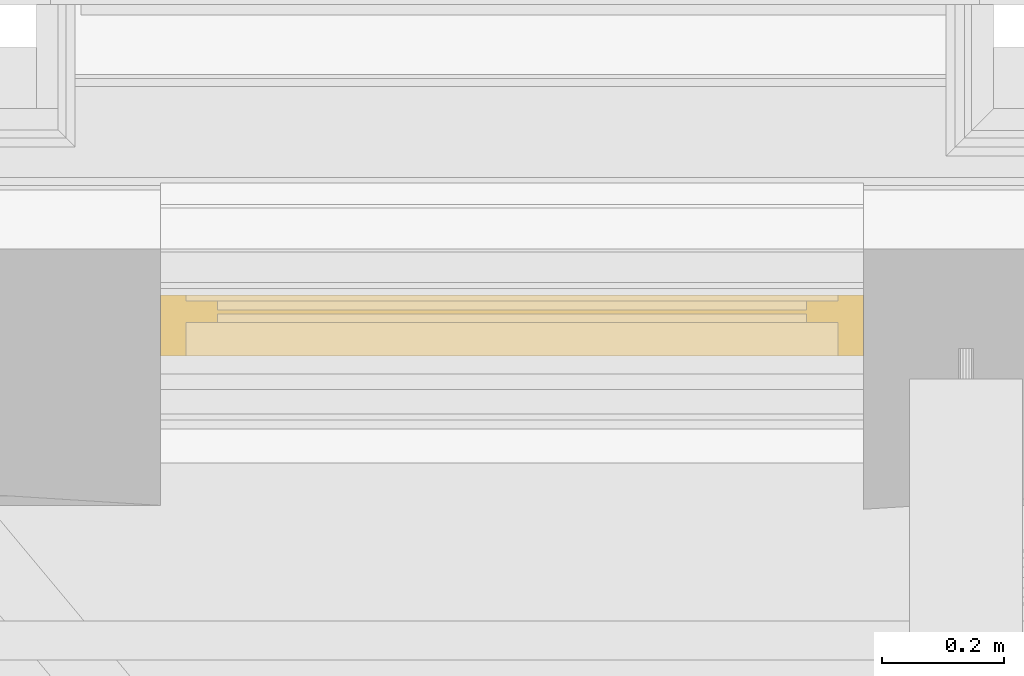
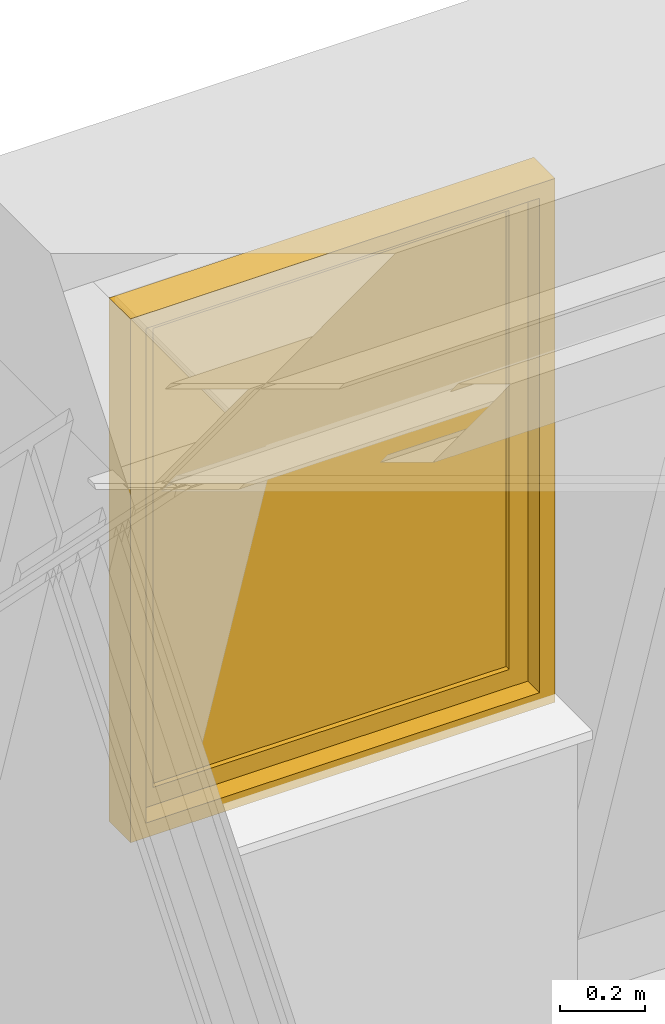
# One storey, part 134 of 183: 1 window.
"""IFC2X3 building model written with IfcOpenShell, lengths in metres."""

import ifcopenshell
import ifcopenshell.guid

model = None  # the IFC model being written
_history = None  # IfcOwnerHistory: only IFC2X3 demands one
_inside = {}  # id of a spatial element -> (the spatial element, [elements in it])
_under = {}  # id of a project, library or spatial element -> (it, [spatial elements below it])
_declared = {}  # id of a project -> (the project, [libraries it declares])
_typed = {}  # id of a type object -> (the type object, [elements of that type])
_made_of = {}  # id of a material, layer set ... -> (it, [elements and type objects made of it])


def new_model(schema):
    """Start an empty IFC model of exactly this schema.

    Asked for "IFC4X3", IfcOpenShell would pick the latest addendum, in which some entities
    have other attributes; the version numbers below select the first issue.
    IFC2X3 requires an IfcOwnerHistory on every rooted entity: one is made here for all.
    """
    global model, _history
    if schema == "IFC4X3":
        model = ifcopenshell.file(schema_version=(4, 3, 0, 0))
    else:
        model = ifcopenshell.file(schema=schema)
    _inside.clear()
    _under.clear()
    _declared.clear()
    _typed.clear()
    _made_of.clear()
    _history = None
    if model.schema == "IFC2X3":
        org = make("IfcOrganization", Name="unknown")
        user = make(
            "IfcPersonAndOrganization",
            ThePerson=make("IfcPerson", FamilyName="unknown"),
            TheOrganization=org,
        )
        app = make(
            "IfcApplication",
            ApplicationDeveloper=org,
            Version="unknown",
            ApplicationFullName="unknown",
            ApplicationIdentifier="unknown",
        )
        _history = make(
            "IfcOwnerHistory",
            OwningUser=user,
            OwningApplication=app,
            ChangeAction="ADDED",
            CreationDate=0,
        )
    return model


def make(cls, **values):
    """One entity of the class cls with the attributes given. An attribute that is None is left unset."""
    return model.create_entity(
        cls, **{name: value for name, value in values.items() if value is not None}
    )


def entity(cls, *values):
    """Any entity or typed value of the class cls, its attributes in the order of the schema. None: left unset."""
    e = model.create_entity(cls)
    for i, value in enumerate(values):
        if value is not None:
            e[i] = value
    return e


def rooted(cls, **values):
    """An entity with a GlobalId (a new one), such as an element, a storey or a relation."""
    return make(cls, GlobalId=ifcopenshell.guid.new(), OwnerHistory=_history, **values)


def si_unit(unit_type, name, prefix=None):
    """IfcSIUnit, for example si_unit("LENGTHUNIT", "METRE", prefix="MILLI")."""
    return make("IfcSIUnit", UnitType=unit_type, Prefix=prefix, Name=name)


def converted_unit(unit_type, name, factor, base, dimensions=None, offset=None):
    """IfcConversionBasedUnit, such as the inch: factor (a typed value) times the base unit."""
    return make(
        "IfcConversionBasedUnit"
        if offset is None
        else "IfcConversionBasedUnitWithOffset",
        ConversionOffset=offset,
        Dimensions=None
        if dimensions is None
        else entity("IfcDimensionalExponents", *dimensions),
        UnitType=unit_type,
        Name=name,
        ConversionFactor=make(
            "IfcMeasureWithUnit", ValueComponent=factor, UnitComponent=base
        ),
    )


def derived_unit(unit_type, elements):
    """IfcDerivedUnit: a product of units, each with its exponent."""
    return make(
        "IfcDerivedUnit",
        Elements=[
            make("IfcDerivedUnitElement", Unit=unit, Exponent=power)
            for unit, power in elements
        ],
        UnitType=unit_type,
    )


def money_unit(currency):
    """IfcMonetaryUnit."""
    return make("IfcMonetaryUnit", Currency=currency)


def assignment(units):
    """IfcUnitAssignment: the units of a project."""
    return None if units is None else make("IfcUnitAssignment", Units=units)


def point(xyz):
    """IfcCartesianPoint."""
    return None if xyz is None else make("IfcCartesianPoint", Coordinates=xyz)


def direction(xyz):
    """IfcDirection."""
    return None if xyz is None else make("IfcDirection", DirectionRatios=xyz)


def frame(location, z_axis=None, x_axis=None):
    """IfcAxis2Placement3D, a coordinate frame: its origin and axes. An axis left out is left unset."""
    return make(
        "IfcAxis2Placement3D",
        Location=point(location),
        Axis=direction(z_axis),
        RefDirection=direction(x_axis),
    )


def origin_with_axes():
    """The frame at (0, 0, 0) with the z axis (0, 0, 1) and the x axis (1, 0, 0) written out."""
    return frame((0.0, 0.0, 0.0), z_axis=(0.0, 0.0, 1.0), x_axis=(1.0, 0.0, 0.0))


def place(relative_to, where):
    """IfcLocalPlacement: puts the frame where relative to a parent placement (None: the world)."""
    return make(
        "IfcLocalPlacement", PlacementRelTo=relative_to, RelativePlacement=where
    )


def context(
    kind, dimensions, precision=None, world=None, true_north=None, identifier=None
):
    """IfcGeometricRepresentationContext, for example the 3D "Model" context."""
    return make(
        "IfcGeometricRepresentationContext",
        ContextIdentifier=identifier,
        ContextType=kind,
        CoordinateSpaceDimension=dimensions,
        Precision=precision,
        WorldCoordinateSystem=world,
        TrueNorth=true_north,
    )


def subcontext(parent, identifier, kind, view, scale=None):
    """IfcGeometricRepresentationSubContext, for example "Body" below "Model"."""
    return make(
        "IfcGeometricRepresentationSubContext",
        ContextIdentifier=identifier,
        ContextType=kind,
        ParentContext=parent,
        TargetScale=scale,
        TargetView=view,
    )


def project(units=None, contexts=None):
    """IfcProject with its units and contexts."""
    return rooted(
        "IfcProject",
        Name="project",
        RepresentationContexts=contexts,
        UnitsInContext=assignment(units),
    )


def spatial(cls, under=None, at=None, **own):
    """A site, building, storey or space (cls), placed at a placement, below another one or the project."""
    s = rooted(cls, ObjectPlacement=at, **own)
    if under is not None:
        _under.setdefault(under.id(), (under, []))[1].append(s)
    return s


def faces_of(points, faces, orient=None, outer=None):
    """IfcFace entities. A face is a list of loops; a loop is a list of indices into points, from 0.

    orient and outer hold one flag for each loop. By default every Orientation is true, the
    first loop of a face is its IfcFaceOuterBound and the others are IfcFaceBound.
    """
    made = []
    for i, loops in enumerate(faces):
        bounds = []
        for j, loop in enumerate(loops):
            is_outer = j == 0 if outer is None else outer[i][j]
            bounds.append(
                make(
                    "IfcFaceOuterBound" if is_outer else "IfcFaceBound",
                    Bound=make("IfcPolyLoop", Polygon=[points[k] for k in loop]),
                    Orientation=True if orient is None else orient[i][j],
                )
            )
        made.append(make("IfcFace", Bounds=bounds))
    return made


def faceted_brep(points, faces, orient=None, outer=None, voids=None):
    """IfcFacetedBrep: a solid bounded by flat faces; with voids (closed shells), ...WithVoids."""
    shared = [point(p) for p in points]
    hull = make("IfcClosedShell", CfsFaces=faces_of(shared, faces, orient, outer))
    if voids is None:
        return make("IfcFacetedBrep", Outer=hull)
    return make(
        "IfcFacetedBrepWithVoids",
        Outer=hull,
        Voids=[
            make(cls, CfsFaces=faces_of(shared, fs, o, b)) for cls, fs, o, b in voids
        ],
    )


def shape(context_of_items, identifier, shape_type, items):
    """IfcShapeRepresentation: the items that make up one representation, for example the "Body"."""
    return make(
        "IfcShapeRepresentation",
        ContextOfItems=context_of_items,
        RepresentationIdentifier=identifier,
        RepresentationType=shape_type,
        Items=items,
    )


def material(Name=None, Category=None):
    """IfcMaterial."""
    return make("IfcMaterial", Name=Name, Category=Category)


def made_of(thing, what):
    """Note that an element or type object is made of a material, layer set ...; save() writes the relation."""
    if what is not None:
        _made_of.setdefault(what.id(), (what, []))[1].append(thing)
    return thing


def type_object(cls, material=None, **own):
    """A type object (cls), such as IfcWallType, which elements share."""
    return made_of(rooted(cls, **own), material)


def element(
    cls,
    number,
    at=None,
    inside=None,
    cuts=None,
    type_object=None,
    material=None,
    context=None,
    identifier="Body",
    shape_type=None,
    held_by="IfcProductDefinitionShape",
    body=None,
    shapes=None,
    **own,
):
    """One element of the class cls, such as IfcWall. Its Tag is "e" and its number.

    at: its placement. inside: the storey or other place that contains it. cuts: it is an
    opening in that element (IfcRelVoidsElement). A single representation is given by context,
    identifier, shape_type and body (its items); several are given by shapes. held_by: the class
    of the entity that holds the representations. save() writes the other relations.
    """
    e = rooted(cls, Tag="e%d" % number, ObjectPlacement=at, **own)
    if body is not None:
        shapes = [shape(context, identifier, shape_type, body)]
    if shapes is not None:
        e.Representation = make(held_by, Representations=shapes)
    if inside is not None:
        _inside.setdefault(inside.id(), (inside, []))[1].append(e)
    if cuts is not None:
        rooted(
            "IfcRelVoidsElement", RelatingBuildingElement=cuts, RelatedOpeningElement=e
        )
    if type_object is not None:
        _typed.setdefault(type_object.id(), (type_object, []))[1].append(e)
    return made_of(e, material)


def aggregate(whole, parts):
    """IfcRelAggregates: a whole, such as a stair, and the parts it consists of."""
    return rooted("IfcRelAggregates", RelatingObject=whole, RelatedObjects=parts)


def save(model, path):
    """Write the relations noted so far, then the file.

    IfcRelAggregates (storeys below a building ...), IfcRelContainedInSpatialStructure (elements
    in a storey), IfcRelDefinesByType, IfcRelAssociatesMaterial and IfcRelDeclares: one each for
    every whole, place, type object, material and project.
    """
    for whole, parts in _under.values():
        aggregate(whole, parts)
    for where, things in _inside.values():
        rooted(
            "IfcRelContainedInSpatialStructure",
            RelatedElements=things,
            RelatingStructure=where,
        )
    for kind, things in _typed.values():
        rooted("IfcRelDefinesByType", RelatedObjects=things, RelatingType=kind)
    for what, things in _made_of.values():
        rooted("IfcRelAssociatesMaterial", RelatedObjects=things, RelatingMaterial=what)
    for by, libraries in _declared.values():
        rooted("IfcRelDeclares", RelatingContext=by, RelatedDefinitions=libraries)
    model.write(path)


model = new_model("IFC2X3")

# Units and contexts
model_context = context("Model", 3, precision=1e-05, world=origin_with_axes(), true_north=direction((0.0, 1.0)))
body_context = subcontext(model_context, "Body", "Model", "MODEL_VIEW", scale=1.0)
ifc_project = project(units=[si_unit("LENGTHUNIT", "METRE"), si_unit("AREAUNIT", "SQUARE_METRE"), si_unit("VOLUMEUNIT", "CUBIC_METRE"), si_unit("ABSORBEDDOSEUNIT", "GRAY"), si_unit("AMOUNTOFSUBSTANCEUNIT", "MOLE"), si_unit("DOSEEQUIVALENTUNIT", "SIEVERT"), si_unit("ELECTRICCAPACITANCEUNIT", "FARAD"), si_unit("ELECTRICCHARGEUNIT", "COULOMB"), si_unit("ELECTRICCONDUCTANCEUNIT", "SIEMENS"), si_unit("ELECTRICCURRENTUNIT", "AMPERE"), si_unit("ELECTRICRESISTANCEUNIT", "OHM"), si_unit("ELECTRICVOLTAGEUNIT", "VOLT"), si_unit("ENERGYUNIT", "JOULE"), si_unit("FORCEUNIT", "NEWTON"), si_unit("FREQUENCYUNIT", "HERTZ"), si_unit("ILLUMINANCEUNIT", "LUX"), si_unit("INDUCTANCEUNIT", "HENRY"), si_unit("LUMINOUSFLUXUNIT", "LUMEN"), si_unit("LUMINOUSINTENSITYUNIT", "CANDELA"), si_unit("MAGNETICFLUXDENSITYUNIT", "TESLA"), si_unit("MAGNETICFLUXUNIT", "WEBER"), si_unit("MASSUNIT", "GRAM"), converted_unit("PLANEANGLEUNIT", "degree", entity("IfcReal", 0.0174532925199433), si_unit("PLANEANGLEUNIT", "RADIAN"), dimensions=[0, 0, 0, 0, 0, 0, 0]), si_unit("POWERUNIT", "WATT"), si_unit("PRESSUREUNIT", "PASCAL"), si_unit("RADIOACTIVITYUNIT", "BECQUEREL"), si_unit("SOLIDANGLEUNIT", "STERADIAN"), si_unit("THERMODYNAMICTEMPERATUREUNIT", "KELVIN"), si_unit("TIMEUNIT", "SECOND"), derived_unit("ACCELERATIONUNIT", [(si_unit("LENGTHUNIT", "METRE"), 1), (si_unit("TIMEUNIT", "SECOND"), -2)]), derived_unit("ANGULARVELOCITYUNIT", [(converted_unit("PLANEANGLEUNIT", "degree", entity("IfcReal", 0.0174532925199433), si_unit("PLANEANGLEUNIT", "RADIAN"), dimensions=[0, 0, 0, 0, 0, 0, 0]), 1), (si_unit("TIMEUNIT", "SECOND"), -1)]), derived_unit("CURVATUREUNIT", [(converted_unit("PLANEANGLEUNIT", "degree", entity("IfcReal", 0.0174532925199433), si_unit("PLANEANGLEUNIT", "RADIAN"), dimensions=[0, 0, 0, 0, 0, 0, 0]), 1), (si_unit("LENGTHUNIT", "METRE"), -1)]), derived_unit("DYNAMICVISCOSITYUNIT", [(si_unit("PRESSUREUNIT", "PASCAL"), 1), (si_unit("TIMEUNIT", "SECOND"), 1)]), derived_unit("HEATFLUXDENSITYUNIT", [(si_unit("POWERUNIT", "WATT"), 1), (si_unit("LENGTHUNIT", "METRE"), -2)]), derived_unit("HEATINGVALUEUNIT", [(si_unit("ENERGYUNIT", "JOULE"), 1), (si_unit("MASSUNIT", "GRAM"), -1)]), derived_unit("INTEGERCOUNTRATEUNIT", [(si_unit("TIMEUNIT", "SECOND"), -1)]), derived_unit("IONCONCENTRATIONUNIT", [(si_unit("MASSUNIT", "GRAM"), 1), (si_unit("VOLUMEUNIT", "CUBIC_METRE"), -1)]), derived_unit("ISOTHERMALMOISTURECAPACITYUNIT", [(si_unit("VOLUMEUNIT", "CUBIC_METRE"), 1), (si_unit("MASSUNIT", "GRAM"), -1)]), derived_unit("KINEMATICVISCOSITYUNIT", [(si_unit("AREAUNIT", "SQUARE_METRE"), 1), (si_unit("TIMEUNIT", "SECOND"), -1)]), derived_unit("LINEARFORCEUNIT", [(si_unit("FORCEUNIT", "NEWTON"), 1), (si_unit("LENGTHUNIT", "METRE"), -1)]), derived_unit("LINEARMOMENTUNIT", [(si_unit("FORCEUNIT", "NEWTON"), 1), (si_unit("LENGTHUNIT", "METRE"), -1)]), derived_unit("LINEARSTIFFNESSUNIT", [(si_unit("FORCEUNIT", "NEWTON"), 1), (si_unit("LENGTHUNIT", "METRE"), -1)]), derived_unit("LINEARVELOCITYUNIT", [(si_unit("LENGTHUNIT", "METRE"), 1), (si_unit("TIMEUNIT", "SECOND"), -1)]), derived_unit("LUMINOUSINTENSITYDISTRIBUTIONUNIT", [(si_unit("LUMINOUSINTENSITYUNIT", "CANDELA"), 1), (si_unit("LUMINOUSFLUXUNIT", "LUMEN"), -1)]), derived_unit("MASSDENSITYUNIT", [(si_unit("MASSUNIT", "GRAM"), 1), (si_unit("VOLUMEUNIT", "CUBIC_METRE"), -1)]), derived_unit("MASSFLOWRATEUNIT", [(si_unit("MASSUNIT", "GRAM"), 1), (si_unit("TIMEUNIT", "SECOND"), -1)]), derived_unit("MASSPERLENGTHUNIT", [(si_unit("MASSUNIT", "GRAM"), 1), (si_unit("LENGTHUNIT", "METRE"), -1)]), derived_unit("MODULUSOFELASTICITYUNIT", [(si_unit("FORCEUNIT", "NEWTON"), 1), (si_unit("AREAUNIT", "SQUARE_METRE"), -1)]), derived_unit("MODULUSOFLINEARSUBGRADEREACTIONUNIT", [(si_unit("FORCEUNIT", "NEWTON"), 1), (si_unit("LENGTHUNIT", "METRE"), -2)]), derived_unit("MODULUSOFROTATIONALSUBGRADEREACTIONUNIT", [(si_unit("FORCEUNIT", "NEWTON"), 1), (si_unit("LENGTHUNIT", "METRE"), 1)]), derived_unit("MODULUSOFSUBGRADEREACTIONUNIT", [(si_unit("FORCEUNIT", "NEWTON"), 1), (si_unit("VOLUMEUNIT", "CUBIC_METRE"), -1)]), derived_unit("MOISTUREDIFFUSIVITYUNIT", [(si_unit("VOLUMEUNIT", "CUBIC_METRE"), 1), (si_unit("TIMEUNIT", "SECOND"), -1)]), derived_unit("MOLECULARWEIGHTUNIT", [(si_unit("MASSUNIT", "GRAM"), 1), (si_unit("AMOUNTOFSUBSTANCEUNIT", "MOLE"), -1)]), derived_unit("PLANARFORCEUNIT", [(si_unit("FORCEUNIT", "NEWTON"), 1), (si_unit("LENGTHUNIT", "METRE"), -2)]), derived_unit("ROTATIONALFREQUENCYUNIT", [(si_unit("TIMEUNIT", "SECOND"), -1)]), derived_unit("ROTATIONALMASSUNIT", [(si_unit("MASSUNIT", "GRAM"), 1), (si_unit("LENGTHUNIT", "METRE"), 2)]), derived_unit("ROTATIONALSTIFFNESSUNIT", [(si_unit("FORCEUNIT", "NEWTON"), 1), (si_unit("LENGTHUNIT", "METRE"), 1), (converted_unit("PLANEANGLEUNIT", "degree", entity("IfcReal", 0.0174532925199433), si_unit("PLANEANGLEUNIT", "RADIAN"), dimensions=[0, 0, 0, 0, 0, 0, 0]), -1)]), derived_unit("SECTIONAREAINTEGRALUNIT", [(si_unit("LENGTHUNIT", "METRE"), 5)]), derived_unit("SECTIONMODULUSUNIT", [(si_unit("LENGTHUNIT", "METRE"), 3)]), derived_unit("SHEARMODULUSUNIT", [(si_unit("FORCEUNIT", "NEWTON"), 1), (si_unit("AREAUNIT", "SQUARE_METRE"), -1)]), derived_unit("SOUNDPOWERUNIT", [(si_unit("ENERGYUNIT", "JOULE"), 1), (si_unit("TIMEUNIT", "SECOND"), -1)]), derived_unit("SPECIFICHEATCAPACITYUNIT", [(si_unit("FORCEUNIT", "NEWTON"), 1), (si_unit("MASSUNIT", "GRAM"), -1), (si_unit("THERMODYNAMICTEMPERATUREUNIT", "KELVIN"), -1)]), derived_unit("TEMPERATUREGRADIENTUNIT", [(si_unit("THERMODYNAMICTEMPERATUREUNIT", "KELVIN"), 1), (si_unit("LENGTHUNIT", "METRE"), -1)]), derived_unit("THERMALADMITTANCEUNIT", [(si_unit("POWERUNIT", "WATT"), 1), (si_unit("AREAUNIT", "SQUARE_METRE"), -1), (si_unit("THERMODYNAMICTEMPERATUREUNIT", "KELVIN"), -1)]), derived_unit("THERMALCONDUCTANCEUNIT", [(si_unit("POWERUNIT", "WATT"), 1), (si_unit("LENGTHUNIT", "METRE"), -1), (si_unit("THERMODYNAMICTEMPERATUREUNIT", "KELVIN"), -1)]), derived_unit("THERMALEXPANSIONCOEFFICIENTUNIT", [(si_unit("THERMODYNAMICTEMPERATUREUNIT", "KELVIN"), -1)]), derived_unit("THERMALRESISTANCEUNIT", [(si_unit("AREAUNIT", "SQUARE_METRE"), 1), (si_unit("POWERUNIT", "WATT"), -1)]), derived_unit("THERMALTRANSMITTANCEUNIT", [(si_unit("POWERUNIT", "WATT"), 1), (si_unit("AREAUNIT", "SQUARE_METRE"), -1), (si_unit("THERMODYNAMICTEMPERATUREUNIT", "KELVIN"), -1)]), derived_unit("TORQUEUNIT", [(si_unit("FORCEUNIT", "NEWTON"), 1), (si_unit("LENGTHUNIT", "METRE"), 1)]), derived_unit("VAPORPERMEABILITYUNIT", [(si_unit("MASSUNIT", "GRAM"), 1), (si_unit("TIMEUNIT", "SECOND"), -1)]), derived_unit("VOLUMETRICFLOWRATEUNIT", [(si_unit("VOLUMEUNIT", "CUBIC_METRE"), 1), (si_unit("TIMEUNIT", "SECOND"), -1)]), derived_unit("WARPINGCONSTANTUNIT", [(si_unit("LENGTHUNIT", "METRE"), 6)]), derived_unit("WARPINGMOMENTUNIT", [(si_unit("FORCEUNIT", "NEWTON"), 1), (si_unit("LENGTHUNIT", "METRE"), 2)]), money_unit("GBP")], contexts=[model_context])

# Site, building, storey, space
site_placement = place(None, origin_with_axes())
site = spatial("IfcSite", under=ifc_project, at=site_placement, Name="Site", CompositionType="ELEMENT")
building_placement = place(site_placement, origin_with_axes())
building = spatial("IfcBuilding", under=site, at=building_placement, Name="Building01", CompositionType="ELEMENT")
storey_placement = place(building_placement, frame((0.0, 0.0, 5.15), z_axis=(0.0, 0.0, 1.0), x_axis=(1.0, 0.0, 0.0)))
storey = spatial("IfcBuildingStorey", under=building, at=storey_placement, Name="1F", CompositionType="ELEMENT", Elevation=5.15)
space_placement = place(storey_placement, frame((16.03844, 8.82, 9.81), z_axis=(0.0, 0.0, 1.0), x_axis=(0.0, -1.0, 0.0)))
space = spatial("IfcSpace", under=storey, at=space_placement, Name="23", CompositionType="ELEMENT", InteriorOrExteriorSpace="NOTDEFINED")

# Window
ifc_material = material(Name="A_BSUK_Windows")
window_style = type_object("IfcWindowStyle", Name="A-Awning", ConstructionType="NOTDEFINED", OperationType="USERDEFINED", ParameterTakesPrecedence=False, Sizeable=False)
window_placement = place(storey_placement, frame((14.020024, 14.350061, 10.78), z_axis=(0.0, 0.0, 1.0), x_axis=(-1.0, 0.0, 0.0)))
element("IfcWindow", 1, at=window_placement, inside=space, type_object=window_style, material=ifc_material, Name="4.19", ObjectType="A-Awning", OverallHeight=1.50000000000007, OverallWidth=1.15000000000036, context=body_context, shape_type="Brep", body=[
    faceted_brep([(-1.108, 0.0254, 0.042), (-0.042, 0.0254, 0.042), (-0.042, 0.1254, 0.042), (-1.108, 0.1254, 0.042), (-1.108, 0.0254, 1.458), (-1.108, 0.1254, 1.458), (-0.042, 0.0254, 1.458), (-0.042, 0.1254, 1.458), (0.0, 0.0254, 0.0), (0.0, 0.0254, 1.5), (-1.15, 0.0254, 1.5), (-1.15, 0.0254, 0.0), (0.0, 0.1254, 1.5), (-1.15, 0.1254, 1.5), (-1.15, 0.1254, 0.0), (0.0, 0.1254, 0.0)], [[[0, 1, 2, 3]], [[4, 0, 3, 5]], [[6, 4, 5, 7]], [[8, 9, 10, 11], [4, 6, 1, 0]], [[1, 6, 7, 2]], [[12, 13, 10, 9]], [[14, 15, 8, 11]], [[13, 14, 11, 10]], [[13, 12, 15, 14], [2, 7, 5, 3]], [[15, 12, 9, 8]]]),
    faceted_brep([(-1.0572, 0.0354, 0.0928), (-0.0928, 0.0354, 0.0928), (-0.0928, 0.0704, 0.0928), (-1.0572, 0.0704, 0.0928), (-1.0572, 0.0354, 1.4072), (-1.0572, 0.0704, 1.4072), (-0.0928, 0.0354, 1.4072), (-0.0928, 0.0704, 1.4072), (-1.108, 0.0704, 1.458), (-0.042, 0.0704, 1.458), (-0.042, 0.0704, 0.042), (-1.108, 0.0704, 0.042), (-1.108, 0.0354, 1.458), (-0.042, 0.0354, 1.458), (-0.042, 0.0354, 0.042), (-1.108, 0.0354, 0.042)], [[[0, 1, 2, 3]], [[4, 0, 3, 5]], [[6, 4, 5, 7]], [[8, 9, 10, 11], [2, 7, 5, 3]], [[9, 8, 12, 13]], [[10, 9, 13, 14]], [[11, 10, 14, 15]], [[8, 11, 15, 12]], [[14, 13, 12, 15], [4, 6, 1, 0]], [[1, 6, 7, 2]]]),
    faceted_brep([(-0.0928, 0.049725, 0.0928), (-0.0928, 0.056075, 0.0928), (-0.0928, 0.056075, 1.4072), (-0.0928, 0.049725, 1.4072), (-1.0572, 0.049725, 1.4072), (-1.0572, 0.056075, 1.4072), (-1.0572, 0.056075, 0.0928), (-1.0572, 0.049725, 0.0928)], [[[0, 1, 2, 3]], [[4, 5, 6, 7]], [[3, 2, 5, 4]], [[3, 4, 7, 0]], [[7, 6, 1, 0]], [[1, 6, 5, 2]]]),
])

save(model, "model.ifc")
